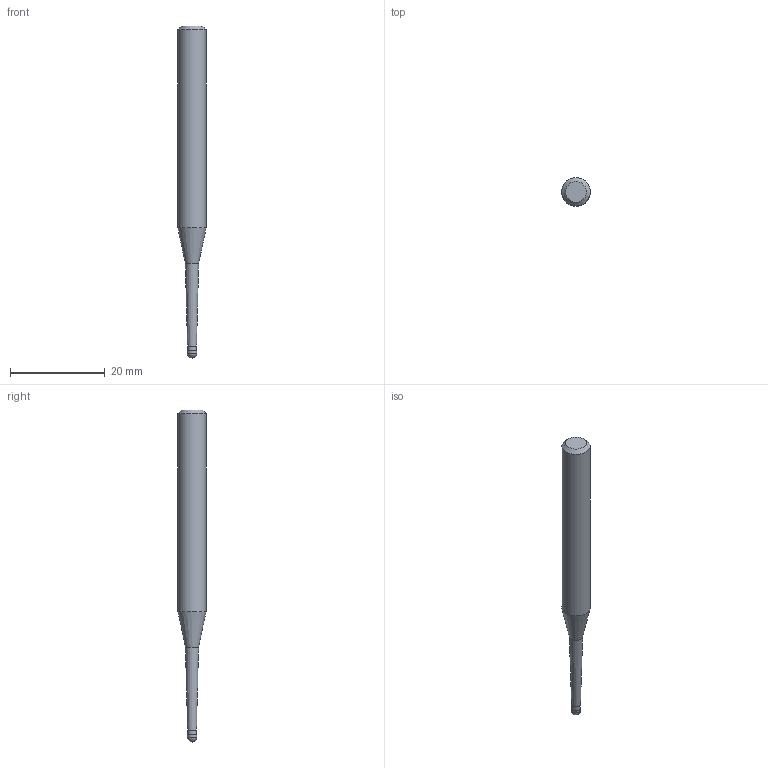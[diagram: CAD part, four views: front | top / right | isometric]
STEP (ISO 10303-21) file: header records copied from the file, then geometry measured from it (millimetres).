
FILE_DESCRIPTION((''),'2;1');
FILE_NAME('C:\Users\nsx150\AppData\Local\Temp\Mastercam 2021\E0ENTZRV18\TEMP.step','2021-09-02T09:56:56',(''),(''),'STEP Write','Mastercam 2021 ... CNC Software, Inc.','');
FILE_SCHEMA(('AUTOMOTIVE_DESIGN'));
Length unit declared in the file: millimetre
Products named in the file (1): None
Bounding box: 6 x 6 x 70 mm (x, y, z)
Volume: 1398.3 mm3; surface area: 1075.9 mm2
Topology: 2 solids, 2 shells, 10 faces, 16 edges, 9 vertices
Faces by surface type: plane 3, cylinder 3, cone 3, sphere 1
Full cylindrical faces by diameter (mm): 1.875 x1, 2 x1, 6 x1
Entity records: 232 total; most frequent: DIRECTION 40, CARTESIAN_POINT 28, AXIS2_PLACEMENT_3D 20, ORIENTED_EDGE 16, EDGE_LOOP 16, STYLED_ITEM 13, ADVANCED_FACE 10, FACE_BOUND 9
